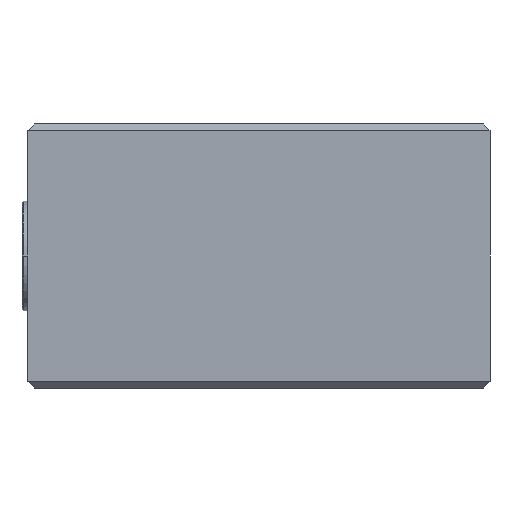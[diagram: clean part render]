
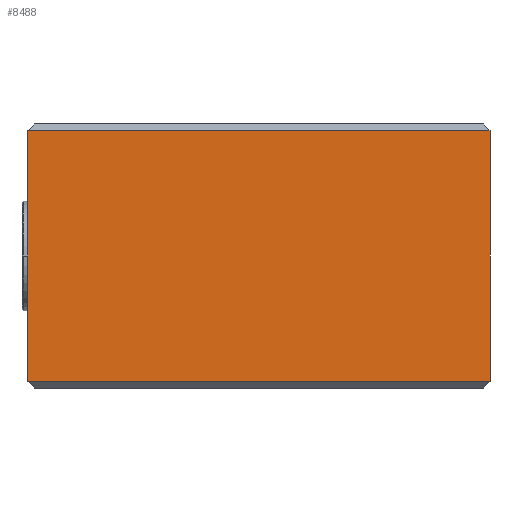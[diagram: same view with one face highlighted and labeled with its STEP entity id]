
A CAD part, left-side view. The second image highlights one B-rep face of the part: STEP entity #8488.
In plain terms, the highlighted planar face has unit normal (-1, 0, 0).
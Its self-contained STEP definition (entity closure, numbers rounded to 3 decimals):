
#282 = ORIENTED_EDGE ( 'NONE', *, *, #6358, .T. ) ;
#406 = VECTOR ( 'NONE', #3449, 1000. ) ;
#872 = LINE ( 'NONE', #5401, #3329 ) ;
#1054 = CARTESIAN_POINT ( 'NONE',  ( -7.5, 0., 19.5 ) ) ;
#1120 = LINE ( 'NONE', #1054, #3026 ) ;
#1335 = CARTESIAN_POINT ( 'NONE',  ( -7.5, -17.5, 0.5 ) ) ;
#1508 = EDGE_CURVE ( 'NONE', #5712, #2611, #6946, .T. ) ;
#1619 = VECTOR ( 'NONE', #7243, 1000. ) ;
#1776 = ORIENTED_EDGE ( 'NONE', *, *, #1508, .F. ) ;
#2237 = FACE_OUTER_BOUND ( 'NONE', #6644, .T. ) ;
#2611 = VERTEX_POINT ( 'NONE', #1335 ) ;
#2765 = CARTESIAN_POINT ( 'NONE',  ( -7.5, -17.5, 20. ) ) ;
#2816 = CARTESIAN_POINT ( 'NONE',  ( -7.5, -17.5, 0.5 ) ) ;
#3026 = VECTOR ( 'NONE', #5328, 1000. ) ;
#3173 = DIRECTION ( 'NONE',  ( 0., 0., 1. ) ) ;
#3210 = DIRECTION ( 'NONE',  ( -1., 0., 0. ) ) ;
#3329 = VECTOR ( 'NONE', #8989, 1000. ) ;
#3449 = DIRECTION ( 'NONE',  ( 0., -1., 0. ) ) ;
#4112 = CARTESIAN_POINT ( 'NONE',  ( -7.5, 17.5, 0.5 ) ) ;
#5152 = CARTESIAN_POINT ( 'NONE',  ( -7.5, -17.5, 19.5 ) ) ;
#5328 = DIRECTION ( 'NONE',  ( 0., 1., 0. ) ) ;
#5349 = VERTEX_POINT ( 'NONE', #8501 ) ;
#5401 = CARTESIAN_POINT ( 'NONE',  ( -7.5, 17.5, 20. ) ) ;
#5712 = VERTEX_POINT ( 'NONE', #5152 ) ;
#6141 = CARTESIAN_POINT ( 'NONE',  ( -7.5, 0., 20. ) ) ;
#6358 = EDGE_CURVE ( 'NONE', #5712, #5349, #1120, .T. ) ;
#6641 = VERTEX_POINT ( 'NONE', #4112 ) ;
#6644 = EDGE_LOOP ( 'NONE', ( #6874, #9115, #1776, #282 ) ) ;
#6823 = PLANE ( 'NONE',  #9365 ) ;
#6874 = ORIENTED_EDGE ( 'NONE', *, *, #8117, .T. ) ;
#6946 = LINE ( 'NONE', #2765, #1619 ) ;
#7105 = LINE ( 'NONE', #2816, #406 ) ;
#7243 = DIRECTION ( 'NONE',  ( 0., 0., -1. ) ) ;
#8117 = EDGE_CURVE ( 'NONE', #5349, #6641, #872, .T. ) ;
#8488 = ADVANCED_FACE ( 'NONE', ( #2237 ), #6823, .T. ) ;
#8501 = CARTESIAN_POINT ( 'NONE',  ( -7.5, 17.5, 19.5 ) ) ;
#8763 = EDGE_CURVE ( 'NONE', #6641, #2611, #7105, .T. ) ;
#8989 = DIRECTION ( 'NONE',  ( 0., 0., -1. ) ) ;
#9115 = ORIENTED_EDGE ( 'NONE', *, *, #8763, .T. ) ;
#9365 = AXIS2_PLACEMENT_3D ( 'NONE', #6141, #3210, #3173 ) ;
